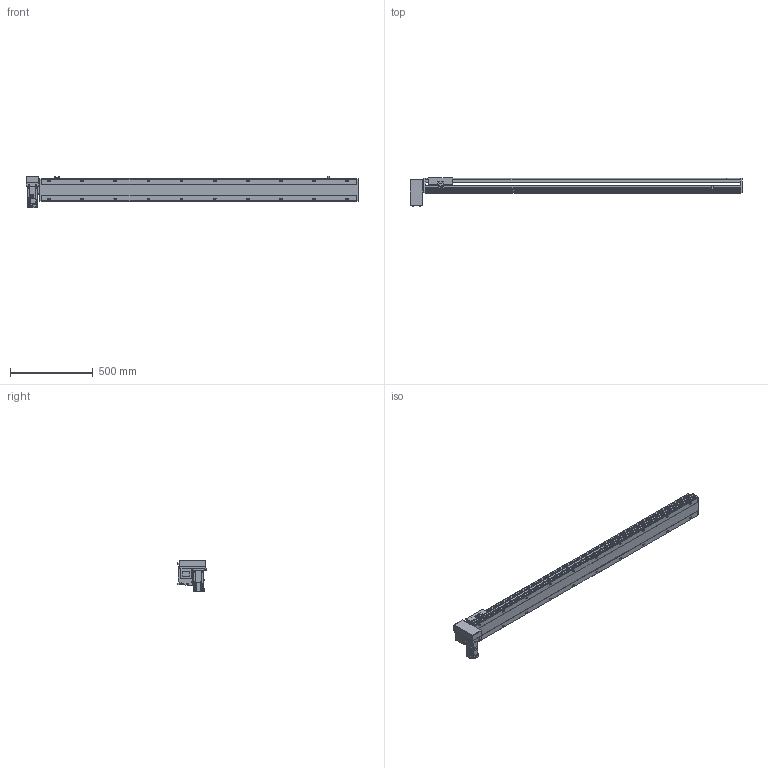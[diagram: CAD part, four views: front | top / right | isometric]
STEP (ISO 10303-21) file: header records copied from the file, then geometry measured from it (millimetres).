
FILE_DESCRIPTION(/* description */ ('STEP AP214'),/* implementation_level */ '2;1');
FILE_NAME(/* name */ 'PBS140S-P40-S1650-RD-T40-C1-N(0)',/* time_stamp */ '2022-06-09T02:43:56+02:00',/* author */ ('License CC BY-ND 4.0'),/* organization */ ('CADENAS'),/* preprocessor_version */ 'ST-DEVELOPER v18.102',/* originating_system */ 'PARTsolutions',/* authorisation */ ' ');
FILE_SCHEMA (('AUTOMOTIVE_DESIGN {1 0 10303 214 3 1 1}'));
Length unit declared in the file: millimetre
Products named in the file (7): PBS140S-P40-S1650-RD-T40-C1-N(0); PBS140S_sensor; PBS140S_plant; PBS140S_sliser; T40-p1; PBS140ST-RD_motors; PBS140S-S1650()_body
Assembly tree (8 placements, depth 2):
  PBS140S-P40-S1650-RD-T40-C1-N(0)
    PBS140S_sensor  x3
    PBS140S_plant
    PBS140S_sliser
    T40-p1
    PBS140ST-RD_motors
    PBS140S-S1650()_body
Bounding box: 2004 x 172.5 x 189.7 mm (x, y, z)
Volume: 10000804.8 mm3; surface area: 1702868.8 mm2
Topology: 8 solids, 8 shells, 1131 faces, 2991 edges, 1957 vertices
Faces by surface type: plane 714, cylinder 361, cone 46, sphere 8, torus 2
Full cylindrical faces by diameter (mm): 3.242 x4, 4 x2, 4.134 x4, 4.4 x8, 4.5 x2, 4.8 x4, 4.917 x28, 5.5 x7, 6 x2, 7 x22, 7.5 x8, 8 x12, 8.5 x4, 10.5 x20, 14 x1, 30 x2, 50 x2
Entity records: 32412 total; most frequent: CARTESIAN_POINT 6040, DIRECTION 5488, ORIENTED_EDGE 5182, EDGE_CURVE 2591, AXIS2_PLACEMENT_3D 1919, VERTEX_POINT 1801, LINE 1650, VECTOR 1650
